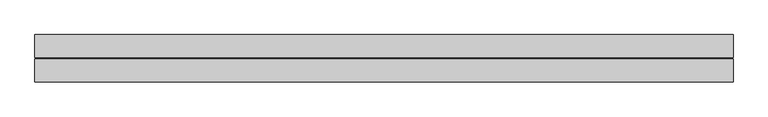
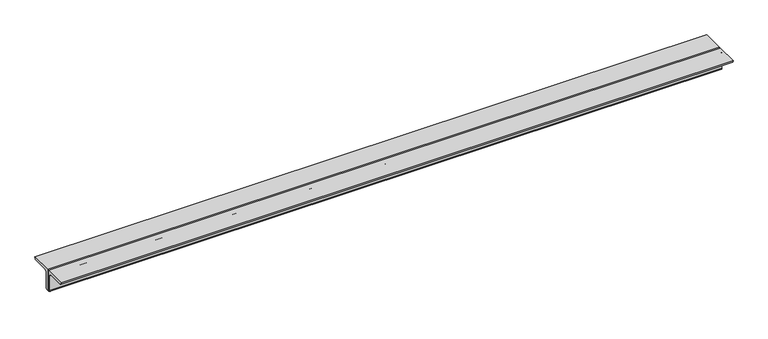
"""IFC4 building model written with IfcOpenShell, lengths in millimetres: beam geometry, Profilati doppi a L : DCED150x12."""

from ifc_helpers import new_model, si_unit, point, frame, frame_2d, origin, place, context, project, spatial, polyline, circle_curve, trimmed, segment, composite_curve, outline, extrude, source, transform, mapped, element, save


def beam_87c8cfda(model_context):
    return source(origin(), model_context, "Body", "SweptSolid", [
        extrude(outline(composite_curve([segment(polyline([(6.0, 42.4), (156.0, 42.4)]), True, "CONTINUOUS"), segment(trimmed(circle_curve(frame_2d((141.0, 42.4)), 15.0), [point((156.0, 42.4))], [point((141.0, 27.4))], False, "CARTESIAN"), True, "CONTINUOUS"), segment(polyline([(141.0, 27.4), (36.0, 27.4)]), True, "CONTINUOUS"), segment(trimmed(circle_curve(frame_2d((36.0, 12.4)), 15.0), [point((36.0, 27.4))], [point((21.0, 12.4))], True, "CARTESIAN"), True, "CONTINUOUS"), segment(polyline([(21.0, 12.4), (21.0, -92.6)]), True, "CONTINUOUS"), segment(trimmed(circle_curve(frame_2d((6.0, -92.6)), 15.0), [point((21.0, -92.6))], [point((6.0, -107.6))], False, "CARTESIAN"), True, "CONTINUOUS"), segment(polyline([(6.0, -107.6), (6.0, 42.4)]), True, "CONTINUOUS")], self_intersect=False)), frame((-1985.0, 0.0, 0.0), z_axis=(1.0, 0.0, 0.0), x_axis=(0.0, 1.0, 0.0)), (0.0, 0.0, 1.0), 4612.0),
        extrude(outline(composite_curve([segment(polyline([(-6.0, 42.4), (-6.0, -107.6)]), True, "CONTINUOUS"), segment(trimmed(circle_curve(frame_2d((-6.0, -92.6)), 15.0), [point((-6.0, -107.6))], [point((-21.0, -92.6))], False, "CARTESIAN"), True, "CONTINUOUS"), segment(polyline([(-21.0, -92.6), (-21.0, 12.4)]), True, "CONTINUOUS"), segment(trimmed(circle_curve(frame_2d((-36.0, 12.4)), 15.0), [point((-21.0, 12.4))], [point((-36.0, 27.4))], True, "CARTESIAN"), True, "CONTINUOUS"), segment(polyline([(-36.0, 27.4), (-141.0, 27.4)]), True, "CONTINUOUS"), segment(trimmed(circle_curve(frame_2d((-141.0, 42.4)), 15.0), [point((-141.0, 27.4))], [point((-156.0, 42.4))], False, "CARTESIAN"), True, "CONTINUOUS"), segment(polyline([(-156.0, 42.4), (-6.0, 42.4)]), True, "CONTINUOUS")], self_intersect=False)), frame((-1985.0, 0.0, 0.0), z_axis=(1.0, 0.0, 0.0), x_axis=(0.0, 1.0, 0.0)), (0.0, 0.0, 1.0), 4612.0),
    ])


if __name__ == "__main__":
    model = new_model("IFC4")
    model_context = context("Model", 3, world=origin())
    ifc_project = project(units=[si_unit("LENGTHUNIT", "METRE", prefix="MILLI")], contexts=[model_context])
    site = spatial("IfcSite", under=ifc_project)
    building = spatial("IfcBuilding", under=site)
    placement = place(None, origin())
    beam_shape = beam_87c8cfda(model_context)
    element("IfcBeam", 1, ObjectType="Profilati doppi a L : DCED150x12", at=placement, inside=building, context=model_context, shape_type="MappedRepresentation", body=[
        mapped(beam_shape, transform((0.0, 0.0, 0.0), x_axis=(1.0, 0.0, 0.0), y_axis=(0.0, 1.0, 0.0), z_axis=(0.0, 0.0, 1.0))),
    ])
    save(model, "model.ifc")
